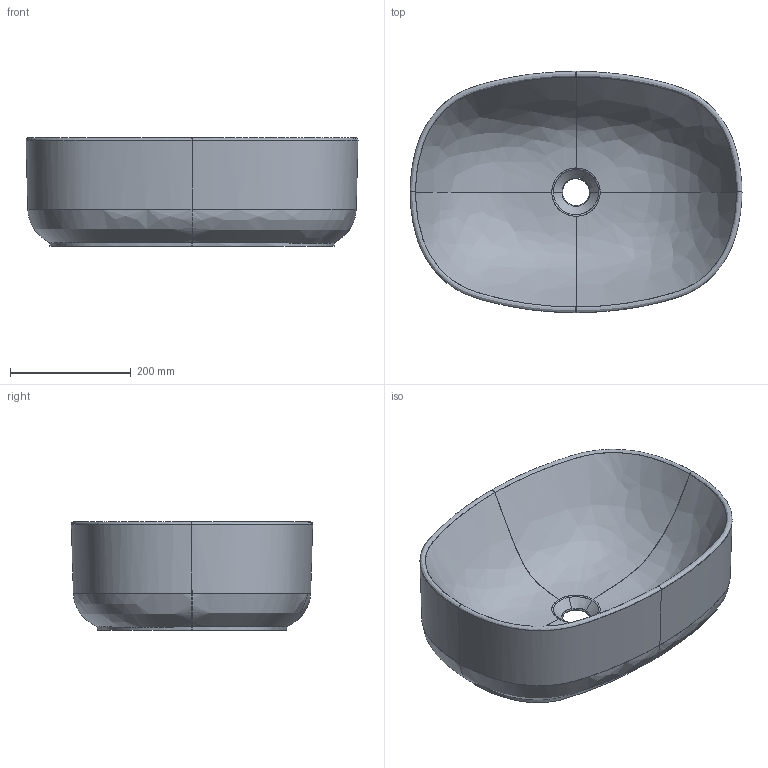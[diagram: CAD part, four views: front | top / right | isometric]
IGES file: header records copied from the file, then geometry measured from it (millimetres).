
Start section: START RECORD GO HERE.
Global section: file name: C:\Users\DE NITTO FULVIO\Desktop\Nic2013-14\Collezione Semplice\lavaboSempliceOvale55\lavabo ovale55x40x18.igs; native system: Rhinoceros ( Jan 18 2007 ); preprocessor: Trout Lake IGES 012 Jan 18 2007; date: 140702.132303; units: millimetre
Bounding box: 550 x 399.69 x 180.16 mm (x, y, z)
Surface area: 564284.1 mm2 (no closed solid volume)
Topology: 0 solids, 0 shells, 32 faces, 1092 edges, 1091 vertices
Faces by surface type: bspline 32
